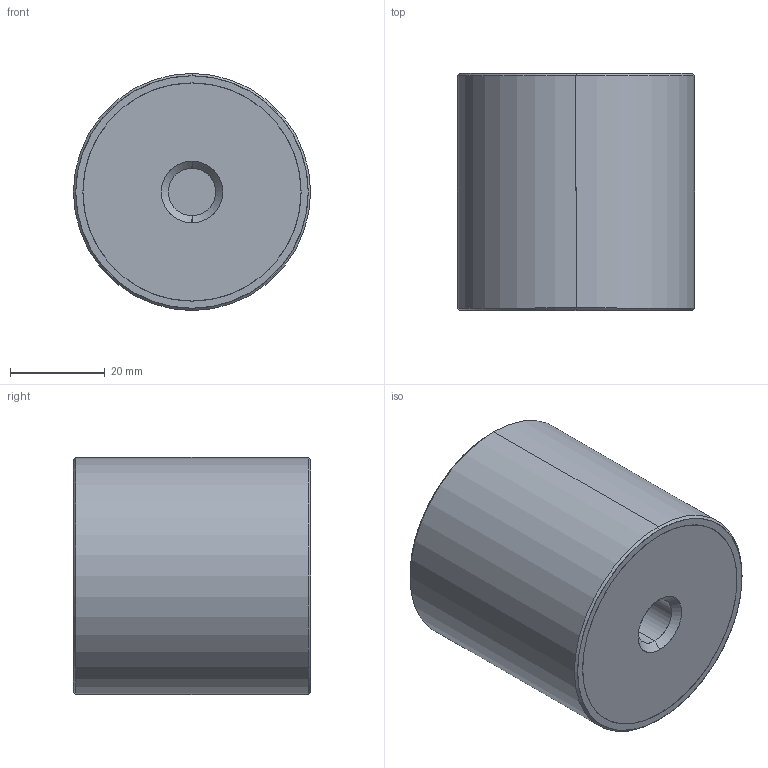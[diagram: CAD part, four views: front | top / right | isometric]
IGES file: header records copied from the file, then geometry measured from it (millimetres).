
Start section: SolidWorks IGES file using analytic representation for surfaces
Global section: file name: E:\WIXROYD 20180701\61080_v2\61080_v2_20180409_IGES\61080.W0503.igs; native system: SolidWorks 2017; preprocessor: SolidWorks 2017; author: liam_; date: 180716.214528; units: millimetre
Bounding box: 50 x 50 x 50 mm (x, y, z)
Surface area: 19467.8 mm2 (no closed solid volume)
Topology: 0 solids, 0 shells, 32 faces, 984 edges, 984 vertices
Faces by surface type: revolution 22, bspline 10
